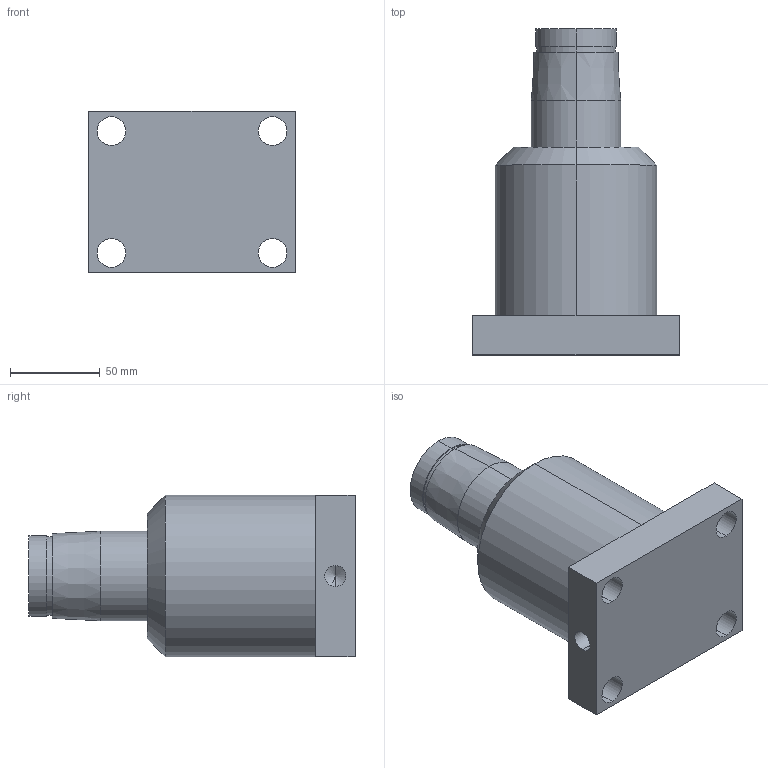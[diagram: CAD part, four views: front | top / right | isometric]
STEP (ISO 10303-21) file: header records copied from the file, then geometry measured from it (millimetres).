
FILE_DESCRIPTION (( 'STEP AP214' ), '1' );
FILE_NAME ('HPS-63DB.STEP', '2021-10-18T08:40:24', ( '' ), ( '' ), 'SwSTEP 2.0', 'SolidWorks 2016', '' );
FILE_SCHEMA (( 'AUTOMOTIVE_DESIGN' ));
Length unit declared in the file: millimetre
Products named in the file (1): HPS-63DB
Bounding box: 115 x 182 x 90 mm (x, y, z)
Volume: 912878.5 mm3; surface area: 68527.5 mm2
Topology: 1 solids, 1 shells, 39 faces, 90 edges, 54 vertices
Faces by surface type: cylinder 20, plane 11, cone 8
Entity records: 1200 total; most frequent: DIRECTION 210, CARTESIAN_POINT 180, ORIENTED_EDGE 172, EDGE_CURVE 86, AXIS2_PLACEMENT_3D 84, VERTEX_POINT 54, EDGE_LOOP 52, CIRCLE 44
